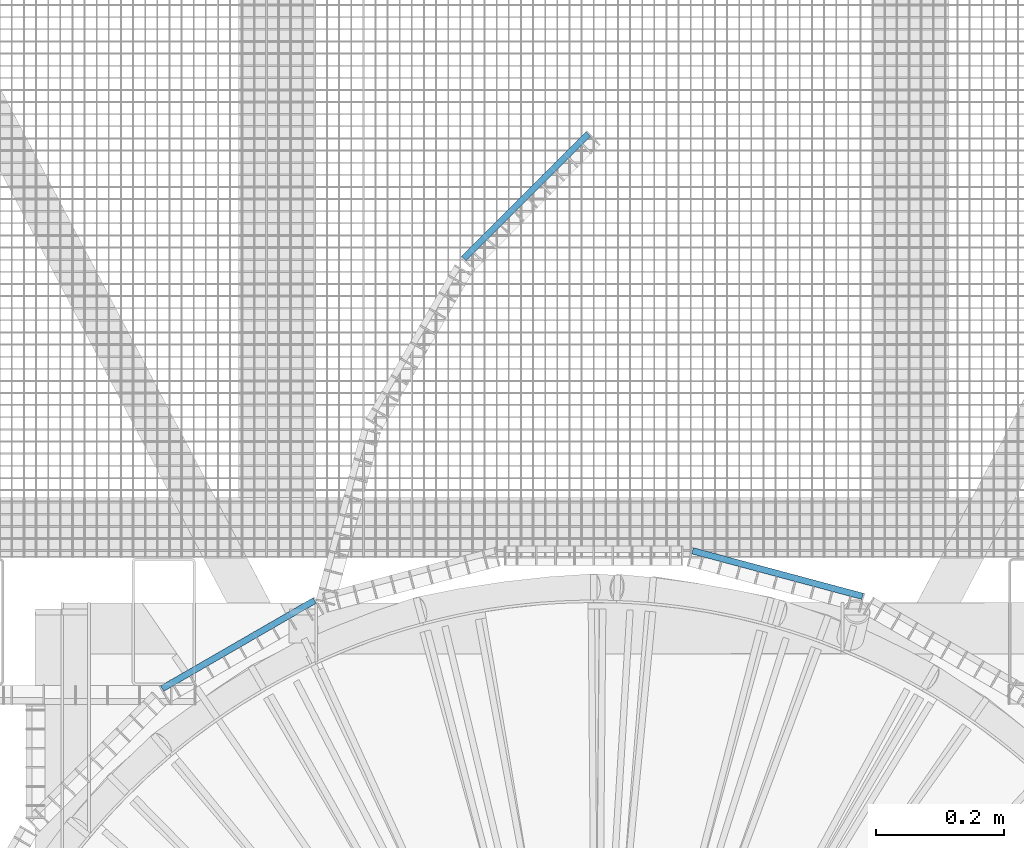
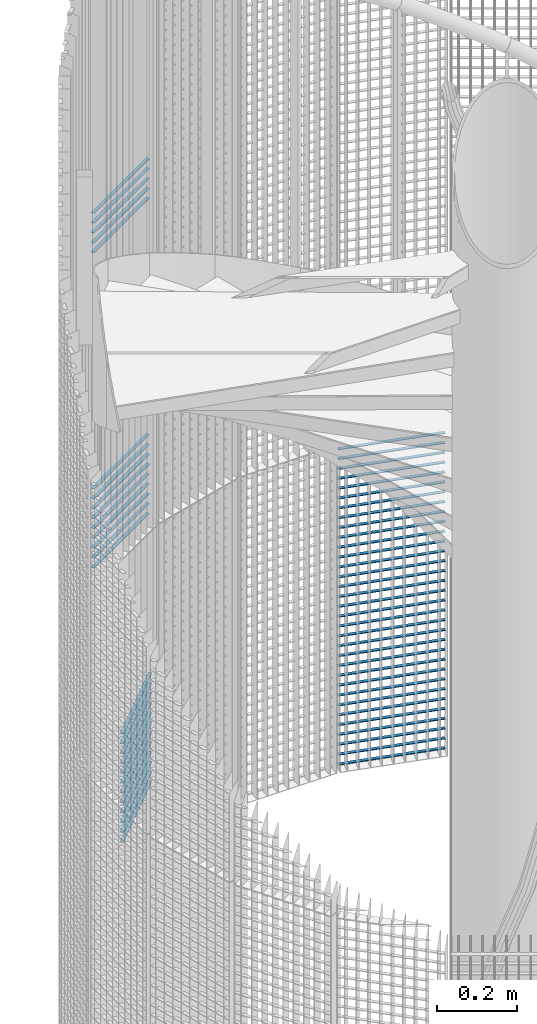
# One storey, part 323 of 1183: 59 beams, 2 elements without a shape of their own.
"""IFC2X3 building model written with IfcOpenShell, lengths in millimetres."""

from ifc_helpers import new_model, si_unit, frame, origin_with_axes, origin_2d_with_axis, place, context, subcontext, project, spatial, rectangle, extrude, material, type_object, element, aggregate, save


model = new_model("IFC2X3")

# Units and contexts
model_context = context("Model", 3, precision=1e-05, world=origin_with_axes())
body_context = subcontext(model_context, "Body", "Model", "MODEL_VIEW")
ifc_project = project(units=[si_unit("LENGTHUNIT", "METRE", prefix="MILLI"), si_unit("AREAUNIT", "SQUARE_METRE"), si_unit("VOLUMEUNIT", "CUBIC_METRE"), si_unit("MASSUNIT", "GRAM", prefix="KILO"), si_unit("TIMEUNIT", "SECOND"), si_unit("PLANEANGLEUNIT", "RADIAN"), si_unit("SOLIDANGLEUNIT", "STERADIAN"), si_unit("THERMODYNAMICTEMPERATUREUNIT", "DEGREE_CELSIUS"), si_unit("LUMINOUSINTENSITYUNIT", "LUMEN")], contexts=[model_context])

# Site, building, storey
site_placement = place(None, origin_with_axes())
site = spatial("IfcSite", under=ifc_project, at=site_placement, Name="Undefined", CompositionType="ELEMENT")
building_placement = place(site_placement, origin_with_axes())
building = spatial("IfcBuilding", under=site, at=building_placement, Name="Undefined", CompositionType="ELEMENT")
storey_placement = place(building_placement, origin_with_axes())
storey = spatial("IfcBuildingStorey", under=building, at=storey_placement, Name="Undefined", CompositionType="ELEMENT", Elevation=0.0)

# Assembly, beams
assembly_1_placement = place(storey_placement, origin_with_axes())
assembly_1 = element("IfcElementAssembly", 1, at=assembly_1_placement, inside=storey, Name="BORDURE", AssemblyPlace="NOTDEFINED", PredefinedType="NOTDEFINED")
ifc_material = material(Name="STEEL/S235JR")
beam_type = type_object("IfcBeamType", Name="PL2*10", PredefinedType="NOTDEFINED")
beam_1_placement = place(assembly_1_placement, frame((-437.231955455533, 1033.29996828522, 3270.0), z_axis=(-0.49999999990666, 0.866025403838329, 0.0), x_axis=(-0.866025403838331, -0.499999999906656, 0.0)))
beam_1 = element("IfcBeam", 2, at=beam_1_placement, type_object=beam_type, material=ifc_material, Name="ENTRETOISE", context=body_context, shape_type="SweptSolid", body=[
    extrude(rectangle(XDim=2.0, YDim=10.0, at=origin_2d_with_axis()), frame((275.999999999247, 9.09494701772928e-13, 1.53210777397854e-14), z_axis=(-1.0, 0.0, 0.0), x_axis=(0.0, -1.0, 0.0)), (0.0, 0.0, 1.0), 276.0),
])
beam_2_placement = place(assembly_1_placement, frame((-437.231955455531, 1033.29996828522, 3990.0), z_axis=(-0.49999999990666, 0.866025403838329, 0.0), x_axis=(-0.866025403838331, -0.499999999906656, 0.0)))
beam_2 = element("IfcBeam", 3, at=beam_2_placement, type_object=beam_type, material=ifc_material, Name="ENTRETOISE", context=body_context, shape_type="SweptSolid", body=[
    extrude(rectangle(XDim=2.0, YDim=10.0, at=origin_2d_with_axis()), frame((275.999999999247, 9.09494701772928e-13, 1.53210777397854e-14), z_axis=(-1.0, 0.0, 0.0), x_axis=(0.0, -1.0, 0.0)), (0.0, 0.0, 1.0), 276.0),
])
beam_3_placement = place(assembly_1_placement, frame((-437.231955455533, 1033.29996828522, 3240.0), z_axis=(-0.49999999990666, 0.866025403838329, 0.0), x_axis=(-0.866025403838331, -0.499999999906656, 0.0)))
beam_3 = element("IfcBeam", 4, at=beam_3_placement, type_object=beam_type, material=ifc_material, Name="ENTRETOISE", context=body_context, shape_type="SweptSolid", body=[
    extrude(rectangle(XDim=2.0, YDim=10.0, at=origin_2d_with_axis()), frame((275.999999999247, 9.09494701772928e-13, 1.53210777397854e-14), z_axis=(-1.0, 0.0, 0.0), x_axis=(0.0, -1.0, 0.0)), (0.0, 0.0, 1.0), 276.0),
])
beam_4_placement = place(assembly_1_placement, frame((-437.231955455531, 1033.29996828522, 4020.0), z_axis=(-0.49999999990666, 0.866025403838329, 0.0), x_axis=(-0.866025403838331, -0.499999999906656, 0.0)))
beam_4 = element("IfcBeam", 5, at=beam_4_placement, type_object=beam_type, material=ifc_material, Name="ENTRETOISE", context=body_context, shape_type="SweptSolid", body=[
    extrude(rectangle(XDim=2.0, YDim=10.0, at=origin_2d_with_axis()), frame((275.999999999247, 9.09494701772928e-13, 1.53210777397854e-14), z_axis=(-1.0, 0.0, 0.0), x_axis=(0.0, -1.0, 0.0)), (0.0, 0.0, 1.0), 276.0),
])
beam_5_placement = place(assembly_1_placement, frame((-437.231955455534, 1033.29996828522, 3210.0), z_axis=(-0.49999999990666, 0.866025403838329, 0.0), x_axis=(-0.866025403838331, -0.499999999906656, 0.0)))
beam_5 = element("IfcBeam", 6, at=beam_5_placement, type_object=beam_type, material=ifc_material, Name="ENTRETOISE", context=body_context, shape_type="SweptSolid", body=[
    extrude(rectangle(XDim=2.0, YDim=10.0, at=origin_2d_with_axis()), frame((275.999999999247, 9.09494701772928e-13, 1.53210777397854e-14), z_axis=(-1.0, 0.0, 0.0), x_axis=(0.0, -1.0, 0.0)), (0.0, 0.0, 1.0), 276.0),
])
beam_6_placement = place(assembly_1_placement, frame((-437.231955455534, 1033.29996828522, 3180.0), z_axis=(-0.49999999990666, 0.866025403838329, 0.0), x_axis=(-0.866025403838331, -0.499999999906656, 0.0)))
beam_6 = element("IfcBeam", 7, at=beam_6_placement, type_object=beam_type, material=ifc_material, Name="ENTRETOISE", context=body_context, shape_type="SweptSolid", body=[
    extrude(rectangle(XDim=2.0, YDim=10.0, at=origin_2d_with_axis()), frame((275.999999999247, 9.09494701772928e-13, 1.53210777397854e-14), z_axis=(-1.0, 0.0, 0.0), x_axis=(0.0, -1.0, 0.0)), (0.0, 0.0, 1.0), 276.0),
])
beam_7_placement = place(assembly_1_placement, frame((-437.231955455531, 1033.29996828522, 4050.0), z_axis=(-0.49999999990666, 0.866025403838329, 0.0), x_axis=(-0.866025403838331, -0.499999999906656, 0.0)))
beam_7 = element("IfcBeam", 8, at=beam_7_placement, type_object=beam_type, material=ifc_material, Name="ENTRETOISE", context=body_context, shape_type="SweptSolid", body=[
    extrude(rectangle(XDim=2.0, YDim=10.0, at=origin_2d_with_axis()), frame((275.999999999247, 9.09494701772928e-13, 1.53210777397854e-14), z_axis=(-1.0, 0.0, 0.0), x_axis=(0.0, -1.0, 0.0)), (0.0, 0.0, 1.0), 276.0),
])
beam_8_placement = place(assembly_1_placement, frame((-437.231955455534, 1033.29996828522, 3150.0), z_axis=(-0.49999999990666, 0.866025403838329, 0.0), x_axis=(-0.866025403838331, -0.499999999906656, 0.0)))
beam_8 = element("IfcBeam", 9, at=beam_8_placement, type_object=beam_type, material=ifc_material, Name="ENTRETOISE", context=body_context, shape_type="SweptSolid", body=[
    extrude(rectangle(XDim=2.0, YDim=10.0, at=origin_2d_with_axis()), frame((275.999999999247, 9.09494701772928e-13, 1.53210777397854e-14), z_axis=(-1.0, 0.0, 0.0), x_axis=(0.0, -1.0, 0.0)), (0.0, 0.0, 1.0), 276.0),
])
beam_9_placement = place(assembly_1_placement, frame((-437.231955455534, 1033.29996828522, 3120.0), z_axis=(-0.49999999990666, 0.866025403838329, 0.0), x_axis=(-0.866025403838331, -0.499999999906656, 0.0)))
beam_9 = element("IfcBeam", 10, at=beam_9_placement, type_object=beam_type, material=ifc_material, Name="ENTRETOISE", context=body_context, shape_type="SweptSolid", body=[
    extrude(rectangle(XDim=2.0, YDim=10.0, at=origin_2d_with_axis()), frame((275.999999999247, 9.09494701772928e-13, 1.53210777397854e-14), z_axis=(-1.0, 0.0, 0.0), x_axis=(0.0, -1.0, 0.0)), (0.0, 0.0, 1.0), 276.0),
])
beam_10_placement = place(assembly_1_placement, frame((-437.231955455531, 1033.29996828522, 4080.0), z_axis=(-0.49999999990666, 0.866025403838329, 0.0), x_axis=(-0.866025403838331, -0.499999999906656, 0.0)))
beam_10 = element("IfcBeam", 11, at=beam_10_placement, type_object=beam_type, material=ifc_material, Name="ENTRETOISE", context=body_context, shape_type="SweptSolid", body=[
    extrude(rectangle(XDim=2.0, YDim=10.0, at=origin_2d_with_axis()), frame((275.999999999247, 9.09494701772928e-13, 1.53210777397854e-14), z_axis=(-1.0, 0.0, 0.0), x_axis=(0.0, -1.0, 0.0)), (0.0, 0.0, 1.0), 276.0),
])
beam_11_placement = place(assembly_1_placement, frame((-437.231955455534, 1033.29996828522, 3090.0), z_axis=(-0.49999999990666, 0.866025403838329, 0.0), x_axis=(-0.866025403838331, -0.499999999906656, 0.0)))
beam_11 = element("IfcBeam", 12, at=beam_11_placement, type_object=beam_type, material=ifc_material, Name="ENTRETOISE", context=body_context, shape_type="SweptSolid", body=[
    extrude(rectangle(XDim=2.0, YDim=10.0, at=origin_2d_with_axis()), frame((275.999999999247, 9.09494701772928e-13, 1.53210777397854e-14), z_axis=(-1.0, 0.0, 0.0), x_axis=(0.0, -1.0, 0.0)), (0.0, 0.0, 1.0), 276.0),
])
beam_12_placement = place(assembly_1_placement, frame((-437.231955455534, 1033.29996828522, 3060.0), z_axis=(-0.49999999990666, 0.866025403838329, 0.0), x_axis=(-0.866025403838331, -0.499999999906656, 0.0)))
beam_12 = element("IfcBeam", 13, at=beam_12_placement, type_object=beam_type, material=ifc_material, Name="ENTRETOISE", context=body_context, shape_type="SweptSolid", body=[
    extrude(rectangle(XDim=2.0, YDim=10.0, at=origin_2d_with_axis()), frame((275.999999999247, 9.09494701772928e-13, 1.53210777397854e-14), z_axis=(-1.0, 0.0, 0.0), x_axis=(0.0, -1.0, 0.0)), (0.0, 0.0, 1.0), 276.0),
])
beam_13_placement = place(assembly_1_placement, frame((-437.231955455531, 1033.29996828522, 4110.0), z_axis=(-0.49999999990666, 0.866025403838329, 0.0), x_axis=(-0.866025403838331, -0.499999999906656, 0.0)))
beam_13 = element("IfcBeam", 14, at=beam_13_placement, type_object=beam_type, material=ifc_material, Name="ENTRETOISE", context=body_context, shape_type="SweptSolid", body=[
    extrude(rectangle(XDim=2.0, YDim=10.0, at=origin_2d_with_axis()), frame((275.999999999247, 9.09494701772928e-13, 1.53210777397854e-14), z_axis=(-1.0, 0.0, 0.0), x_axis=(0.0, -1.0, 0.0)), (0.0, 0.0, 1.0), 276.0),
])
beam_14_placement = place(assembly_1_placement, frame((-437.231955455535, 1033.29996828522, 3030.0), z_axis=(-0.49999999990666, 0.866025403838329, 0.0), x_axis=(-0.866025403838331, -0.499999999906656, 0.0)))
beam_14 = element("IfcBeam", 15, at=beam_14_placement, type_object=beam_type, material=ifc_material, Name="ENTRETOISE", context=body_context, shape_type="SweptSolid", body=[
    extrude(rectangle(XDim=2.0, YDim=10.0, at=origin_2d_with_axis()), frame((275.999999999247, 9.09494701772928e-13, 1.53210777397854e-14), z_axis=(-1.0, 0.0, 0.0), x_axis=(0.0, -1.0, 0.0)), (0.0, 0.0, 1.0), 276.0),
])
aggregate(assembly_1, [beam_1, beam_2, beam_3, beam_4, beam_5, beam_6, beam_7, beam_8, beam_9, beam_10, beam_11, beam_12, beam_13, beam_14])

assembly_2_placement = place(storey_placement, origin_with_axes())
assembly_2 = element("IfcElementAssembly", 16, at=assembly_2_placement, inside=storey, Name="BORDURE", AssemblyPlace="NOTDEFINED", PredefinedType="NOTDEFINED")
beam_15_placement = place(assembly_2_placement, frame((421.483733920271, 1039.82309522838, 2970.0), z_axis=(0.258819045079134, 0.965925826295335, 0.0), x_axis=(-0.965925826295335, 0.258819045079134, 0.0)))
beam_15 = element("IfcBeam", 17, at=beam_15_placement, type_object=beam_type, material=ifc_material, Name="ENTRETOISE", context=body_context, shape_type="SweptSolid", body=[
    extrude(rectangle(XDim=2.0, YDim=10.0, at=origin_2d_with_axis()), frame((275.999999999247, 9.09494701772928e-13, 1.53210777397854e-14), z_axis=(-1.0, 0.0, 0.0), x_axis=(0.0, -1.0, 0.0)), (0.0, 0.0, 1.0), 276.0),
])
beam_16_placement = place(assembly_2_placement, frame((421.483733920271, 1039.82309522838, 2940.0), z_axis=(0.258819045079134, 0.965925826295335, 0.0), x_axis=(-0.965925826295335, 0.258819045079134, 0.0)))
beam_16 = element("IfcBeam", 18, at=beam_16_placement, type_object=beam_type, material=ifc_material, Name="ENTRETOISE", context=body_context, shape_type="SweptSolid", body=[
    extrude(rectangle(XDim=2.0, YDim=10.0, at=origin_2d_with_axis()), frame((275.999999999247, 9.09494701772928e-13, 1.53210777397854e-14), z_axis=(-1.0, 0.0, 0.0), x_axis=(0.0, -1.0, 0.0)), (0.0, 0.0, 1.0), 276.0),
])
beam_17_placement = place(assembly_2_placement, frame((421.483733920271, 1039.82309522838, 2910.0), z_axis=(0.258819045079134, 0.965925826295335, 0.0), x_axis=(-0.965925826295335, 0.258819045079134, 0.0)))
beam_17 = element("IfcBeam", 19, at=beam_17_placement, type_object=beam_type, material=ifc_material, Name="ENTRETOISE", context=body_context, shape_type="SweptSolid", body=[
    extrude(rectangle(XDim=2.0, YDim=10.0, at=origin_2d_with_axis()), frame((275.999999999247, 9.09494701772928e-13, 1.53210777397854e-14), z_axis=(-1.0, 0.0, 0.0), x_axis=(0.0, -1.0, 0.0)), (0.0, 0.0, 1.0), 276.0),
])
beam_18_placement = place(assembly_2_placement, frame((421.483733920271, 1039.82309522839, 2880.0), z_axis=(0.258819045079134, 0.965925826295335, 0.0), x_axis=(-0.965925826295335, 0.258819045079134, 0.0)))
beam_18 = element("IfcBeam", 20, at=beam_18_placement, type_object=beam_type, material=ifc_material, Name="ENTRETOISE", context=body_context, shape_type="SweptSolid", body=[
    extrude(rectangle(XDim=2.0, YDim=10.0, at=origin_2d_with_axis()), frame((275.999999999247, 9.09494701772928e-13, 1.53210777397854e-14), z_axis=(-1.0, 0.0, 0.0), x_axis=(0.0, -1.0, 0.0)), (0.0, 0.0, 1.0), 276.0),
])
beam_19_placement = place(assembly_2_placement, frame((421.483733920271, 1039.82309522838, 2850.0), z_axis=(0.258819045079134, 0.965925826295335, 0.0), x_axis=(-0.965925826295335, 0.258819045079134, 0.0)))
beam_19 = element("IfcBeam", 21, at=beam_19_placement, type_object=beam_type, material=ifc_material, Name="ENTRETOISE", context=body_context, shape_type="SweptSolid", body=[
    extrude(rectangle(XDim=2.0, YDim=10.0, at=origin_2d_with_axis()), frame((275.999999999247, 9.09494701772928e-13, 1.53210777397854e-14), z_axis=(-1.0, 0.0, 0.0), x_axis=(0.0, -1.0, 0.0)), (0.0, 0.0, 1.0), 276.0),
])
beam_20_placement = place(assembly_2_placement, frame((421.483733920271, 1039.82309522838, 2820.0), z_axis=(0.258819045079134, 0.965925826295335, 0.0), x_axis=(-0.965925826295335, 0.258819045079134, 0.0)))
beam_20 = element("IfcBeam", 22, at=beam_20_placement, type_object=beam_type, material=ifc_material, Name="ENTRETOISE", context=body_context, shape_type="SweptSolid", body=[
    extrude(rectangle(XDim=2.0, YDim=10.0, at=origin_2d_with_axis()), frame((275.999999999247, 9.09494701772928e-13, 1.53210777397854e-14), z_axis=(-1.0, 0.0, 0.0), x_axis=(0.0, -1.0, 0.0)), (0.0, 0.0, 1.0), 276.0),
])
beam_21_placement = place(assembly_2_placement, frame((421.483733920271, 1039.82309522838, 2790.0), z_axis=(0.258819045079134, 0.965925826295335, 0.0), x_axis=(-0.965925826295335, 0.258819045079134, 0.0)))
beam_21 = element("IfcBeam", 23, at=beam_21_placement, type_object=beam_type, material=ifc_material, Name="ENTRETOISE", context=body_context, shape_type="SweptSolid", body=[
    extrude(rectangle(XDim=2.0, YDim=10.0, at=origin_2d_with_axis()), frame((275.999999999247, 9.09494701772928e-13, 1.53210777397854e-14), z_axis=(-1.0, 0.0, 0.0), x_axis=(0.0, -1.0, 0.0)), (0.0, 0.0, 1.0), 276.0),
])
beam_22_placement = place(assembly_2_placement, frame((421.483733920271, 1039.82309522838, 2760.0), z_axis=(0.258819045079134, 0.965925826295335, 0.0), x_axis=(-0.965925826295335, 0.258819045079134, 0.0)))
beam_22 = element("IfcBeam", 24, at=beam_22_placement, type_object=beam_type, material=ifc_material, Name="ENTRETOISE", context=body_context, shape_type="SweptSolid", body=[
    extrude(rectangle(XDim=2.0, YDim=10.0, at=origin_2d_with_axis()), frame((275.999999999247, 9.09494701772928e-13, 1.53210777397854e-14), z_axis=(-1.0, 0.0, 0.0), x_axis=(0.0, -1.0, 0.0)), (0.0, 0.0, 1.0), 276.0),
])
beam_23_placement = place(assembly_2_placement, frame((421.483733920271, 1039.82309522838, 2730.0), z_axis=(0.258819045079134, 0.965925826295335, 0.0), x_axis=(-0.965925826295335, 0.258819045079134, 0.0)))
beam_23 = element("IfcBeam", 25, at=beam_23_placement, type_object=beam_type, material=ifc_material, Name="ENTRETOISE", context=body_context, shape_type="SweptSolid", body=[
    extrude(rectangle(XDim=2.0, YDim=10.0, at=origin_2d_with_axis()), frame((275.999999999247, 9.09494701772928e-13, 1.53210777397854e-14), z_axis=(-1.0, 0.0, 0.0), x_axis=(0.0, -1.0, 0.0)), (0.0, 0.0, 1.0), 276.0),
])
beam_24_placement = place(assembly_2_placement, frame((421.483733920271, 1039.82309522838, 2700.0), z_axis=(0.258819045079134, 0.965925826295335, 0.0), x_axis=(-0.965925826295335, 0.258819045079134, 0.0)))
beam_24 = element("IfcBeam", 26, at=beam_24_placement, type_object=beam_type, material=ifc_material, Name="ENTRETOISE", context=body_context, shape_type="SweptSolid", body=[
    extrude(rectangle(XDim=2.0, YDim=10.0, at=origin_2d_with_axis()), frame((275.999999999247, 9.09494701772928e-13, 1.53210777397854e-14), z_axis=(-1.0, 0.0, 0.0), x_axis=(0.0, -1.0, 0.0)), (0.0, 0.0, 1.0), 276.0),
])
beam_25_placement = place(assembly_2_placement, frame((421.483733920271, 1039.82309522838, 2670.0), z_axis=(0.258819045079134, 0.965925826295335, 0.0), x_axis=(-0.965925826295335, 0.258819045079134, 0.0)))
beam_25 = element("IfcBeam", 27, at=beam_25_placement, type_object=beam_type, material=ifc_material, Name="ENTRETOISE", context=body_context, shape_type="SweptSolid", body=[
    extrude(rectangle(XDim=2.0, YDim=10.0, at=origin_2d_with_axis()), frame((275.999999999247, 9.09494701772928e-13, 1.53210777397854e-14), z_axis=(-1.0, 0.0, 0.0), x_axis=(0.0, -1.0, 0.0)), (0.0, 0.0, 1.0), 276.0),
])
beam_26_placement = place(assembly_2_placement, frame((421.48373392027, 1039.82309522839, 2640.0), z_axis=(0.258819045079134, 0.965925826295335, 0.0), x_axis=(-0.965925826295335, 0.258819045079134, 0.0)))
beam_26 = element("IfcBeam", 28, at=beam_26_placement, type_object=beam_type, material=ifc_material, Name="ENTRETOISE", context=body_context, shape_type="SweptSolid", body=[
    extrude(rectangle(XDim=2.0, YDim=10.0, at=origin_2d_with_axis()), frame((275.999999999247, 9.09494701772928e-13, 1.53210777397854e-14), z_axis=(-1.0, 0.0, 0.0), x_axis=(0.0, -1.0, 0.0)), (0.0, 0.0, 1.0), 276.0),
])
beam_27_placement = place(assembly_2_placement, frame((421.48373392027, 1039.82309522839, 2610.0), z_axis=(0.258819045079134, 0.965925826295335, 0.0), x_axis=(-0.965925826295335, 0.258819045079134, 0.0)))
beam_27 = element("IfcBeam", 29, at=beam_27_placement, type_object=beam_type, material=ifc_material, Name="ENTRETOISE", context=body_context, shape_type="SweptSolid", body=[
    extrude(rectangle(XDim=2.0, YDim=10.0, at=origin_2d_with_axis()), frame((275.999999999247, 9.09494701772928e-13, 1.53210777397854e-14), z_axis=(-1.0, 0.0, 0.0), x_axis=(0.0, -1.0, 0.0)), (0.0, 0.0, 1.0), 276.0),
])
beam_28_placement = place(assembly_2_placement, frame((421.48373392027, 1039.82309522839, 2580.0), z_axis=(0.258819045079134, 0.965925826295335, 0.0), x_axis=(-0.965925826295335, 0.258819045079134, 0.0)))
beam_28 = element("IfcBeam", 30, at=beam_28_placement, type_object=beam_type, material=ifc_material, Name="ENTRETOISE", context=body_context, shape_type="SweptSolid", body=[
    extrude(rectangle(XDim=2.0, YDim=10.0, at=origin_2d_with_axis()), frame((275.999999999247, 9.09494701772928e-13, 1.53210777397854e-14), z_axis=(-1.0, 0.0, 0.0), x_axis=(0.0, -1.0, 0.0)), (0.0, 0.0, 1.0), 276.0),
])
beam_29_placement = place(assembly_2_placement, frame((421.48373392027, 1039.82309522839, 2550.0), z_axis=(0.258819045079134, 0.965925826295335, 0.0), x_axis=(-0.965925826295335, 0.258819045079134, 0.0)))
beam_29 = element("IfcBeam", 31, at=beam_29_placement, type_object=beam_type, material=ifc_material, Name="ENTRETOISE", context=body_context, shape_type="SweptSolid", body=[
    extrude(rectangle(XDim=2.0, YDim=10.0, at=origin_2d_with_axis()), frame((275.999999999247, 9.09494701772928e-13, 1.53210777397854e-14), z_axis=(-1.0, 0.0, 0.0), x_axis=(0.0, -1.0, 0.0)), (0.0, 0.0, 1.0), 276.0),
])
beam_30_placement = place(assembly_2_placement, frame((421.48373392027, 1039.82309522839, 2520.0), z_axis=(0.258819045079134, 0.965925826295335, 0.0), x_axis=(-0.965925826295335, 0.258819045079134, 0.0)))
beam_30 = element("IfcBeam", 32, at=beam_30_placement, type_object=beam_type, material=ifc_material, Name="ENTRETOISE", context=body_context, shape_type="SweptSolid", body=[
    extrude(rectangle(XDim=2.0, YDim=10.0, at=origin_2d_with_axis()), frame((275.999999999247, 9.09494701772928e-13, 1.53210777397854e-14), z_axis=(-1.0, 0.0, 0.0), x_axis=(0.0, -1.0, 0.0)), (0.0, 0.0, 1.0), 276.0),
])
beam_31_placement = place(assembly_2_placement, frame((421.48373392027, 1039.82309522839, 2490.0), z_axis=(0.258819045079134, 0.965925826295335, 0.0), x_axis=(-0.965925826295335, 0.258819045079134, 0.0)))
beam_31 = element("IfcBeam", 33, at=beam_31_placement, type_object=beam_type, material=ifc_material, Name="ENTRETOISE", context=body_context, shape_type="SweptSolid", body=[
    extrude(rectangle(XDim=2.0, YDim=10.0, at=origin_2d_with_axis()), frame((275.999999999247, 9.09494701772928e-13, 1.53210777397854e-14), z_axis=(-1.0, 0.0, 0.0), x_axis=(0.0, -1.0, 0.0)), (0.0, 0.0, 1.0), 276.0),
])
beam_32_placement = place(assembly_2_placement, frame((421.48373392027, 1039.82309522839, 2460.0), z_axis=(0.258819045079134, 0.965925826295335, 0.0), x_axis=(-0.965925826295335, 0.258819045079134, 0.0)))
beam_32 = element("IfcBeam", 34, at=beam_32_placement, type_object=beam_type, material=ifc_material, Name="ENTRETOISE", context=body_context, shape_type="SweptSolid", body=[
    extrude(rectangle(XDim=2.0, YDim=10.0, at=origin_2d_with_axis()), frame((275.999999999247, 9.09494701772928e-13, 1.53210777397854e-14), z_axis=(-1.0, 0.0, 0.0), x_axis=(0.0, -1.0, 0.0)), (0.0, 0.0, 1.0), 276.0),
])
beam_33_placement = place(assembly_2_placement, frame((421.48373392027, 1039.82309522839, 2430.0), z_axis=(0.258819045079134, 0.965925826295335, 0.0), x_axis=(-0.965925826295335, 0.258819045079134, 0.0)))
beam_33 = element("IfcBeam", 35, at=beam_33_placement, type_object=beam_type, material=ifc_material, Name="ENTRETOISE", context=body_context, shape_type="SweptSolid", body=[
    extrude(rectangle(XDim=2.0, YDim=10.0, at=origin_2d_with_axis()), frame((275.999999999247, 9.09494701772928e-13, 1.53210777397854e-14), z_axis=(-1.0, 0.0, 0.0), x_axis=(0.0, -1.0, 0.0)), (0.0, 0.0, 1.0), 276.0),
])
beam_34_placement = place(assembly_2_placement, frame((421.48373392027, 1039.82309522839, 2400.0), z_axis=(0.258819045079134, 0.965925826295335, 0.0), x_axis=(-0.965925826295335, 0.258819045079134, 0.0)))
beam_34 = element("IfcBeam", 36, at=beam_34_placement, type_object=beam_type, material=ifc_material, Name="ENTRETOISE", context=body_context, shape_type="SweptSolid", body=[
    extrude(rectangle(XDim=2.0, YDim=10.0, at=origin_2d_with_axis()), frame((275.999999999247, 9.09494701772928e-13, 1.53210777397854e-14), z_axis=(-1.0, 0.0, 0.0), x_axis=(0.0, -1.0, 0.0)), (0.0, 0.0, 1.0), 276.0),
])
beam_35_placement = place(assembly_2_placement, frame((421.48373392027, 1039.82309522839, 2370.0), z_axis=(0.258819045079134, 0.965925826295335, 0.0), x_axis=(-0.965925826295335, 0.258819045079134, 0.0)))
beam_35 = element("IfcBeam", 37, at=beam_35_placement, type_object=beam_type, material=ifc_material, Name="ENTRETOISE", context=body_context, shape_type="SweptSolid", body=[
    extrude(rectangle(XDim=2.0, YDim=10.0, at=origin_2d_with_axis()), frame((275.999999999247, 9.09494701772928e-13, 1.53210777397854e-14), z_axis=(-1.0, 0.0, 0.0), x_axis=(0.0, -1.0, 0.0)), (0.0, 0.0, 1.0), 276.0),
])
beam_36_placement = place(assembly_2_placement, frame((421.48373392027, 1039.82309522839, 2340.0), z_axis=(0.258819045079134, 0.965925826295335, 0.0), x_axis=(-0.965925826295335, 0.258819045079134, 0.0)))
beam_36 = element("IfcBeam", 38, at=beam_36_placement, type_object=beam_type, material=ifc_material, Name="ENTRETOISE", context=body_context, shape_type="SweptSolid", body=[
    extrude(rectangle(XDim=2.0, YDim=10.0, at=origin_2d_with_axis()), frame((275.999999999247, 9.09494701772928e-13, 1.53210777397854e-14), z_axis=(-1.0, 0.0, 0.0), x_axis=(0.0, -1.0, 0.0)), (0.0, 0.0, 1.0), 276.0),
])
beam_37_placement = place(assembly_2_placement, frame((421.483733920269, 1039.82309522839, 2310.0), z_axis=(0.258819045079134, 0.965925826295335, 0.0), x_axis=(-0.965925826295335, 0.258819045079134, 0.0)))
beam_37 = element("IfcBeam", 39, at=beam_37_placement, type_object=beam_type, material=ifc_material, Name="ENTRETOISE", context=body_context, shape_type="SweptSolid", body=[
    extrude(rectangle(XDim=2.0, YDim=10.0, at=origin_2d_with_axis()), frame((275.999999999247, 9.09494701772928e-13, 1.53210777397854e-14), z_axis=(-1.0, 0.0, 0.0), x_axis=(0.0, -1.0, 0.0)), (0.0, 0.0, 1.0), 276.0),
])
beam_38_placement = place(assembly_2_placement, frame((421.483733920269, 1039.82309522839, 2280.0), z_axis=(0.258819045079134, 0.965925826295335, 0.0), x_axis=(-0.965925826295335, 0.258819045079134, 0.0)))
beam_38 = element("IfcBeam", 40, at=beam_38_placement, type_object=beam_type, material=ifc_material, Name="ENTRETOISE", context=body_context, shape_type="SweptSolid", body=[
    extrude(rectangle(XDim=2.0, YDim=10.0, at=origin_2d_with_axis()), frame((275.999999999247, 9.09494701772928e-13, 1.53210777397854e-14), z_axis=(-1.0, 0.0, 0.0), x_axis=(0.0, -1.0, 0.0)), (0.0, 0.0, 1.0), 276.0),
])
beam_39_placement = place(assembly_2_placement, frame((421.483733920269, 1039.82309522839, 2250.0), z_axis=(0.258819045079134, 0.965925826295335, 0.0), x_axis=(-0.965925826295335, 0.258819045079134, 0.0)))
beam_39 = element("IfcBeam", 41, at=beam_39_placement, type_object=beam_type, material=ifc_material, Name="ENTRETOISE", context=body_context, shape_type="SweptSolid", body=[
    extrude(rectangle(XDim=2.0, YDim=10.0, at=origin_2d_with_axis()), frame((275.999999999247, 9.09494701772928e-13, 1.53210777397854e-14), z_axis=(-1.0, 0.0, 0.0), x_axis=(0.0, -1.0, 0.0)), (0.0, 0.0, 1.0), 276.0),
])
beam_40_placement = place(assembly_2_placement, frame((421.483733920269, 1039.82309522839, 2220.0), z_axis=(0.258819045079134, 0.965925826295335, 0.0), x_axis=(-0.965925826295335, 0.258819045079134, 0.0)))
beam_40 = element("IfcBeam", 42, at=beam_40_placement, type_object=beam_type, material=ifc_material, Name="ENTRETOISE", context=body_context, shape_type="SweptSolid", body=[
    extrude(rectangle(XDim=2.0, YDim=10.0, at=origin_2d_with_axis()), frame((275.999999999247, 9.09494701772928e-13, 1.53210777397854e-14), z_axis=(-1.0, 0.0, 0.0), x_axis=(0.0, -1.0, 0.0)), (0.0, 0.0, 1.0), 276.0),
])
beam_41_placement = place(assembly_2_placement, frame((421.483733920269, 1039.82309522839, 2190.0), z_axis=(0.258819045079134, 0.965925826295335, 0.0), x_axis=(-0.965925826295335, 0.258819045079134, 0.0)))
beam_41 = element("IfcBeam", 43, at=beam_41_placement, type_object=beam_type, material=ifc_material, Name="ENTRETOISE", context=body_context, shape_type="SweptSolid", body=[
    extrude(rectangle(XDim=2.0, YDim=10.0, at=origin_2d_with_axis()), frame((275.999999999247, 9.09494701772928e-13, 1.53210777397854e-14), z_axis=(-1.0, 0.0, 0.0), x_axis=(0.0, -1.0, 0.0)), (0.0, 0.0, 1.0), 276.0),
])
beam_42_placement = place(assembly_2_placement, frame((421.483733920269, 1039.82309522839, 2160.0), z_axis=(0.258819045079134, 0.965925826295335, 0.0), x_axis=(-0.965925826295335, 0.258819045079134, 0.0)))
beam_42 = element("IfcBeam", 44, at=beam_42_placement, type_object=beam_type, material=ifc_material, Name="ENTRETOISE", context=body_context, shape_type="SweptSolid", body=[
    extrude(rectangle(XDim=2.0, YDim=10.0, at=origin_2d_with_axis()), frame((275.999999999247, 9.09494701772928e-13, 1.53210777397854e-14), z_axis=(-1.0, 0.0, 0.0), x_axis=(0.0, -1.0, 0.0)), (0.0, 0.0, 1.0), 276.0),
])
beam_43_placement = place(assembly_2_placement, frame((421.483733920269, 1039.82309522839, 2130.0), z_axis=(0.258819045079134, 0.965925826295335, 0.0), x_axis=(-0.965925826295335, 0.258819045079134, 0.0)))
beam_43 = element("IfcBeam", 45, at=beam_43_placement, type_object=beam_type, material=ifc_material, Name="ENTRETOISE", context=body_context, shape_type="SweptSolid", body=[
    extrude(rectangle(XDim=2.0, YDim=10.0, at=origin_2d_with_axis()), frame((275.999999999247, 9.09494701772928e-13, 1.53210777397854e-14), z_axis=(-1.0, 0.0, 0.0), x_axis=(0.0, -1.0, 0.0)), (0.0, 0.0, 1.0), 276.0),
])
beam_44_placement = place(assembly_2_placement, frame((421.483733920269, 1039.82309522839, 2100.0), z_axis=(0.258819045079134, 0.965925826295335, 0.0), x_axis=(-0.965925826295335, 0.258819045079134, 0.0)))
beam_44 = element("IfcBeam", 46, at=beam_44_placement, type_object=beam_type, material=ifc_material, Name="ENTRETOISE", context=body_context, shape_type="SweptSolid", body=[
    extrude(rectangle(XDim=2.0, YDim=10.0, at=origin_2d_with_axis()), frame((275.999999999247, 9.09494701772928e-13, 1.53210777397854e-14), z_axis=(-1.0, 0.0, 0.0), x_axis=(0.0, -1.0, 0.0)), (0.0, 0.0, 1.0), 276.0),
])
beam_45_placement = place(assembly_2_placement, frame((421.483733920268, 1039.82309522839, 2070.0), z_axis=(0.258819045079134, 0.965925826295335, 0.0), x_axis=(-0.965925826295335, 0.258819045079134, 0.0)))
beam_45 = element("IfcBeam", 47, at=beam_45_placement, type_object=beam_type, material=ifc_material, Name="ENTRETOISE", context=body_context, shape_type="SweptSolid", body=[
    extrude(rectangle(XDim=2.0, YDim=10.0, at=origin_2d_with_axis()), frame((275.999999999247, 9.09494701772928e-13, 1.53210777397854e-14), z_axis=(-1.0, 0.0, 0.0), x_axis=(0.0, -1.0, 0.0)), (0.0, 0.0, 1.0), 276.0),
])
beam_46_placement = place(assembly_2_placement, frame((421.483733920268, 1039.82309522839, 2040.0), z_axis=(0.258819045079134, 0.965925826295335, 0.0), x_axis=(-0.965925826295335, 0.258819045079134, 0.0)))
beam_46 = element("IfcBeam", 48, at=beam_46_placement, type_object=beam_type, material=ifc_material, Name="ENTRETOISE", context=body_context, shape_type="SweptSolid", body=[
    extrude(rectangle(XDim=2.0, YDim=10.0, at=origin_2d_with_axis()), frame((275.999999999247, 9.09494701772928e-13, 1.53210777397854e-14), z_axis=(-1.0, 0.0, 0.0), x_axis=(0.0, -1.0, 0.0)), (0.0, 0.0, 1.0), 276.0),
])
beam_47_placement = place(assembly_2_placement, frame((421.483733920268, 1039.82309522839, 2010.0), z_axis=(0.258819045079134, 0.965925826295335, 0.0), x_axis=(-0.965925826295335, 0.258819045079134, 0.0)))
beam_47 = element("IfcBeam", 49, at=beam_47_placement, type_object=beam_type, material=ifc_material, Name="ENTRETOISE", context=body_context, shape_type="SweptSolid", body=[
    extrude(rectangle(XDim=2.0, YDim=10.0, at=origin_2d_with_axis()), frame((275.999999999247, 9.09494701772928e-13, 1.53210777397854e-14), z_axis=(-1.0, 0.0, 0.0), x_axis=(0.0, -1.0, 0.0)), (0.0, 0.0, 1.0), 276.0),
])
beam_48_placement = place(assembly_2_placement, frame((-8.49695219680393, 1764.20529939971, 1950.0), z_axis=(-0.707106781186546, 0.707106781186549, 0.0), x_axis=(-0.70710678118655, -0.707106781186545, 0.0)))
beam_48 = element("IfcBeam", 50, at=beam_48_placement, type_object=beam_type, material=ifc_material, Name="ENTRETOISE", context=body_context, shape_type="SweptSolid", body=[
    extrude(rectangle(XDim=2.0, YDim=10.0, at=origin_2d_with_axis()), frame((275.999999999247, 9.09494701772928e-13, 1.53210777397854e-14), z_axis=(-1.0, 0.0, 0.0), x_axis=(0.0, -1.0, 0.0)), (0.0, 0.0, 1.0), 276.0),
])
beam_49_placement = place(assembly_2_placement, frame((-8.49695219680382, 1764.20529939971, 1920.0), z_axis=(-0.707106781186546, 0.707106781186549, 0.0), x_axis=(-0.70710678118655, -0.707106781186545, 0.0)))
beam_49 = element("IfcBeam", 51, at=beam_49_placement, type_object=beam_type, material=ifc_material, Name="ENTRETOISE", context=body_context, shape_type="SweptSolid", body=[
    extrude(rectangle(XDim=2.0, YDim=10.0, at=origin_2d_with_axis()), frame((275.999999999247, 9.09494701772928e-13, 1.53210777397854e-14), z_axis=(-1.0, 0.0, 0.0), x_axis=(0.0, -1.0, 0.0)), (0.0, 0.0, 1.0), 276.0),
])
beam_50_placement = place(assembly_2_placement, frame((-8.49695219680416, 1764.20529939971, 1890.0), z_axis=(-0.707106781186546, 0.707106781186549, 0.0), x_axis=(-0.70710678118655, -0.707106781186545, 0.0)))
beam_50 = element("IfcBeam", 52, at=beam_50_placement, type_object=beam_type, material=ifc_material, Name="ENTRETOISE", context=body_context, shape_type="SweptSolid", body=[
    extrude(rectangle(XDim=2.0, YDim=10.0, at=origin_2d_with_axis()), frame((275.999999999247, 9.09494701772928e-13, 1.53210777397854e-14), z_axis=(-1.0, 0.0, 0.0), x_axis=(0.0, -1.0, 0.0)), (0.0, 0.0, 1.0), 276.0),
])
beam_51_placement = place(assembly_2_placement, frame((-8.49695219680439, 1764.20529939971, 1860.0), z_axis=(-0.707106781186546, 0.707106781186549, 0.0), x_axis=(-0.70710678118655, -0.707106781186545, 0.0)))
beam_51 = element("IfcBeam", 53, at=beam_51_placement, type_object=beam_type, material=ifc_material, Name="ENTRETOISE", context=body_context, shape_type="SweptSolid", body=[
    extrude(rectangle(XDim=2.0, YDim=10.0, at=origin_2d_with_axis()), frame((275.999999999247, 9.09494701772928e-13, 1.53210777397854e-14), z_axis=(-1.0, 0.0, 0.0), x_axis=(0.0, -1.0, 0.0)), (0.0, 0.0, 1.0), 276.0),
])
beam_52_placement = place(assembly_2_placement, frame((-8.49695219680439, 1764.20529939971, 1830.0), z_axis=(-0.707106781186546, 0.707106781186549, 0.0), x_axis=(-0.70710678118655, -0.707106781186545, 0.0)))
beam_52 = element("IfcBeam", 54, at=beam_52_placement, type_object=beam_type, material=ifc_material, Name="ENTRETOISE", context=body_context, shape_type="SweptSolid", body=[
    extrude(rectangle(XDim=2.0, YDim=10.0, at=origin_2d_with_axis()), frame((275.999999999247, 9.09494701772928e-13, 1.53210777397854e-14), z_axis=(-1.0, 0.0, 0.0), x_axis=(0.0, -1.0, 0.0)), (0.0, 0.0, 1.0), 276.0),
])
beam_53_placement = place(assembly_2_placement, frame((-8.49695219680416, 1764.20529939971, 1800.0), z_axis=(-0.707106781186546, 0.707106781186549, 0.0), x_axis=(-0.70710678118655, -0.707106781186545, 0.0)))
beam_53 = element("IfcBeam", 55, at=beam_53_placement, type_object=beam_type, material=ifc_material, Name="ENTRETOISE", context=body_context, shape_type="SweptSolid", body=[
    extrude(rectangle(XDim=2.0, YDim=10.0, at=origin_2d_with_axis()), frame((275.999999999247, 9.09494701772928e-13, 1.53210777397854e-14), z_axis=(-1.0, 0.0, 0.0), x_axis=(0.0, -1.0, 0.0)), (0.0, 0.0, 1.0), 276.0),
])
beam_54_placement = place(assembly_2_placement, frame((-8.49695219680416, 1764.20529939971, 1770.0), z_axis=(-0.707106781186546, 0.707106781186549, 0.0), x_axis=(-0.70710678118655, -0.707106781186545, 0.0)))
beam_54 = element("IfcBeam", 56, at=beam_54_placement, type_object=beam_type, material=ifc_material, Name="ENTRETOISE", context=body_context, shape_type="SweptSolid", body=[
    extrude(rectangle(XDim=2.0, YDim=10.0, at=origin_2d_with_axis()), frame((275.999999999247, 9.09494701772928e-13, 1.53210777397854e-14), z_axis=(-1.0, 0.0, 0.0), x_axis=(0.0, -1.0, 0.0)), (0.0, 0.0, 1.0), 276.0),
])
beam_55_placement = place(assembly_2_placement, frame((-8.49695219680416, 1764.20529939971, 1740.0), z_axis=(-0.707106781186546, 0.707106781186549, 0.0), x_axis=(-0.70710678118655, -0.707106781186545, 0.0)))
beam_55 = element("IfcBeam", 57, at=beam_55_placement, type_object=beam_type, material=ifc_material, Name="ENTRETOISE", context=body_context, shape_type="SweptSolid", body=[
    extrude(rectangle(XDim=2.0, YDim=10.0, at=origin_2d_with_axis()), frame((275.999999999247, 9.09494701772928e-13, 1.53210777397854e-14), z_axis=(-1.0, 0.0, 0.0), x_axis=(0.0, -1.0, 0.0)), (0.0, 0.0, 1.0), 276.0),
])
beam_56_placement = place(assembly_2_placement, frame((-8.49695219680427, 1764.20529939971, 1710.0), z_axis=(-0.707106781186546, 0.707106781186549, 0.0), x_axis=(-0.70710678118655, -0.707106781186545, 0.0)))
beam_56 = element("IfcBeam", 58, at=beam_56_placement, type_object=beam_type, material=ifc_material, Name="ENTRETOISE", context=body_context, shape_type="SweptSolid", body=[
    extrude(rectangle(XDim=2.0, YDim=10.0, at=origin_2d_with_axis()), frame((275.999999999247, 9.09494701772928e-13, 1.53210777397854e-14), z_axis=(-1.0, 0.0, 0.0), x_axis=(0.0, -1.0, 0.0)), (0.0, 0.0, 1.0), 276.0),
])
beam_57_placement = place(assembly_2_placement, frame((-8.49695219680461, 1764.20529939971, 1680.0), z_axis=(-0.707106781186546, 0.707106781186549, 0.0), x_axis=(-0.70710678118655, -0.707106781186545, 0.0)))
beam_57 = element("IfcBeam", 59, at=beam_57_placement, type_object=beam_type, material=ifc_material, Name="ENTRETOISE", context=body_context, shape_type="SweptSolid", body=[
    extrude(rectangle(XDim=2.0, YDim=10.0, at=origin_2d_with_axis()), frame((275.999999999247, 9.09494701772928e-13, 1.53210777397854e-14), z_axis=(-1.0, 0.0, 0.0), x_axis=(0.0, -1.0, 0.0)), (0.0, 0.0, 1.0), 276.0),
])
beam_58_placement = place(assembly_2_placement, frame((-8.49695219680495, 1764.20529939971, 1650.0), z_axis=(-0.707106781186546, 0.707106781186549, 0.0), x_axis=(-0.70710678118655, -0.707106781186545, 0.0)))
beam_58 = element("IfcBeam", 60, at=beam_58_placement, type_object=beam_type, material=ifc_material, Name="ENTRETOISE", context=body_context, shape_type="SweptSolid", body=[
    extrude(rectangle(XDim=2.0, YDim=10.0, at=origin_2d_with_axis()), frame((275.999999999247, 9.09494701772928e-13, 1.53210777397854e-14), z_axis=(-1.0, 0.0, 0.0), x_axis=(0.0, -1.0, 0.0)), (0.0, 0.0, 1.0), 276.0),
])
beam_59_placement = place(assembly_2_placement, frame((-8.49695219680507, 1764.20529939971, 1620.0), z_axis=(-0.707106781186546, 0.707106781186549, 0.0), x_axis=(-0.70710678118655, -0.707106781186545, 0.0)))
beam_59 = element("IfcBeam", 61, at=beam_59_placement, type_object=beam_type, material=ifc_material, Name="ENTRETOISE", context=body_context, shape_type="SweptSolid", body=[
    extrude(rectangle(XDim=2.0, YDim=10.0, at=origin_2d_with_axis()), frame((275.999999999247, 9.09494701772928e-13, 1.53210777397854e-14), z_axis=(-1.0, 0.0, 0.0), x_axis=(0.0, -1.0, 0.0)), (0.0, 0.0, 1.0), 276.0),
])
aggregate(assembly_2, [beam_15, beam_16, beam_17, beam_18, beam_19, beam_20, beam_21, beam_22, beam_23, beam_24, beam_25, beam_26, beam_27, beam_28, beam_29, beam_30, beam_31, beam_32, beam_33, beam_34, beam_35, beam_36, beam_37, beam_38, beam_39, beam_40, beam_41, beam_42, beam_43, beam_44, beam_45, beam_46, beam_47, beam_48, beam_49, beam_50, beam_51, beam_52, beam_53, beam_54, beam_55, beam_56, beam_57, beam_58, beam_59])

save(model, "model.ifc")
